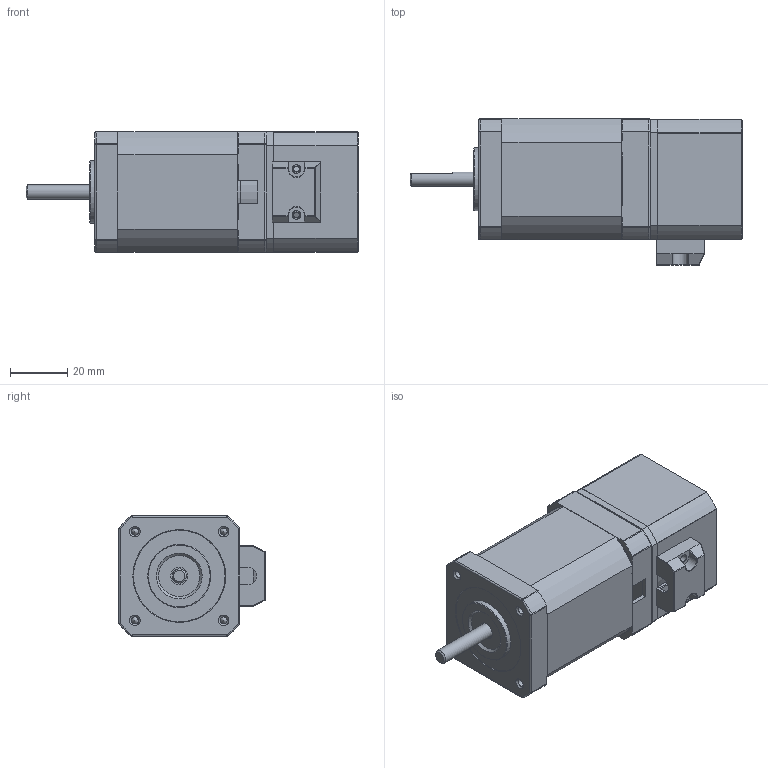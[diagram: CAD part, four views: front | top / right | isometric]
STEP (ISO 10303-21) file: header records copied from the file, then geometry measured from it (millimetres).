
FILE_DESCRIPTION (( 'STEP AP203' ), '1' );
FILE_NAME ('YK42HB60-02A-SC.STEP', '2020-01-03T07:31:53', ( '' ), ( '' ), 'SwSTEP 2.0', 'SolidWorks 2014', '' );
FILE_SCHEMA (( 'CONFIG_CONTROL_DESIGN' ));
Length unit declared in the file: millimetre
Products named in the file (21): YK42HB60-02A-SC; 42BK-揤盄輸; 蹟隊; 42BK; 42BK-綴欶; YK42HBXX-02粣郋; YK42HBXX-02A前盖; YK42HBXX-02A隅赽; 42BK-1; YK42HBXX-02A綴裔
Assembly tree (12 placements, depth 3):
  YK42HB60-02A-SC
    YK42HBXX-02A前盖
    YK42HBXX-02A隅赽
    YK42HBXX-02A綴裔
    YK42HBXX-02粣郋
    蹟隊  x4
    42BK
      42BK-1
      42BK-綴欶
      42BK-揤盄輸
  42BK-揤盄輸
  蹟隊
  蹟隊
  蹟隊
Bounding box: 116 x 51.1 x 42.2 mm (x, y, z)
Volume: 98002.7 mm3; surface area: 51221.4 mm2
Topology: 7 solids, 15 shells, 660 faces, 1738 edges, 1049 vertices
Faces by surface type: cylinder 315, plane 196, cone 81, sphere 46, torus 18, bspline 4
Full cylindrical faces by diameter (mm): 2.05 x2, 2.5 x4, 3 x111, 3.3 x10, 3.4 x4, 4.5 x1, 4.6 x4, 5 x1, 6 x4, 6.5 x1, 10 x1, 13 x4, 16 x2, 18 x1, 22 x1, 25.91 x3, 26.3 x1, 27 x1, 33 x1, 38 x1
Entity records: 15570 total; most frequent: CARTESIAN_POINT 3149, DIRECTION 2335, ORIENTED_EDGE 1996, EDGE_CURVE 1002, AXIS2_PLACEMENT_3D 929, VERTEX_POINT 651, EDGE_LOOP 599, FACE_OUTER_BOUND 510
